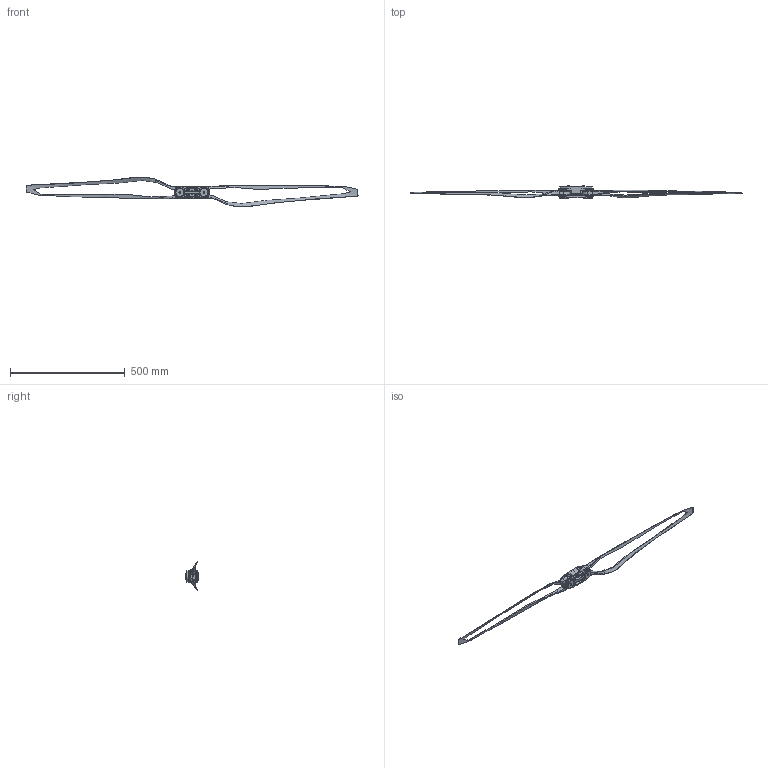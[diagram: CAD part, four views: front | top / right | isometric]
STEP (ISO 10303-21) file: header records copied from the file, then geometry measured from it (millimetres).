
FILE_DESCRIPTION (( 'STEP AP214' ), '1' );
FILE_NAME ('EFZ5720芢薯蔑.STEP', '2026-06-24T09:09:43', ( '' ), ( '' ), 'SwSTEP 2.0', 'SolidWorks 2022', '' );
FILE_SCHEMA (( 'AUTOMOTIVE_DESIGN' ));
Length unit declared in the file: millimetre
Products named in the file (1): EFZ5720推力桨
Bounding box: 1449.14 x 54.4 x 130.49 mm (x, y, z)
Volume: 377055.6 mm3; surface area: 144540.2 mm2
Topology: 1 solids, 1 shells, 610 faces, 1520 edges, 920 vertices
Faces by surface type: plane 210, cylinder 197, cone 121, bspline 82
Entity records: 42307 total; most frequent: CARTESIAN_POINT 28158, ORIENTED_EDGE 3016, DIRECTION 2860, EDGE_CURVE 1508, AXIS2_PLACEMENT_3D 1051, VERTEX_POINT 920, LINE 758, VECTOR 758
